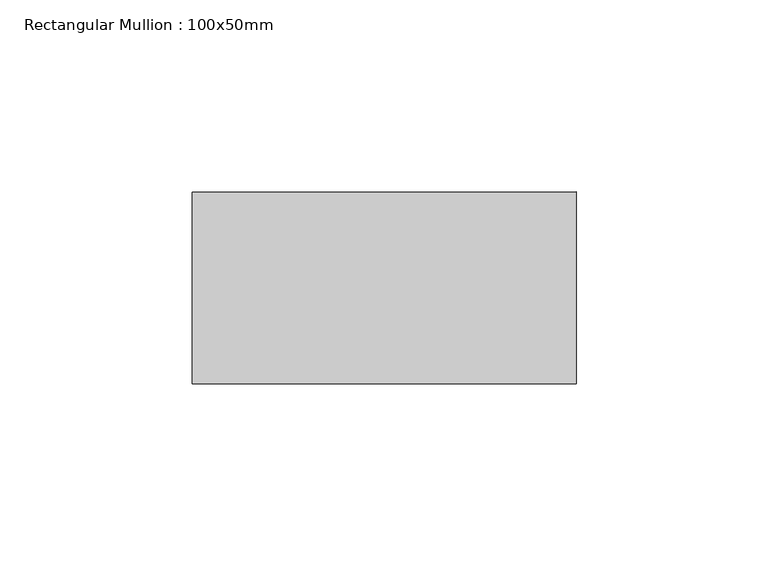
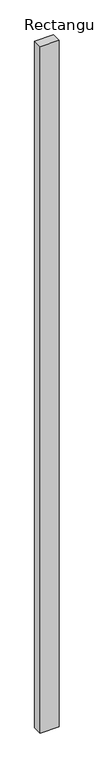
"""IFC4 building model written with IfcOpenShell, lengths in millimetres: member geometry, Rectangular Mullion : 100x50mm."""

from ifc_helpers import new_model, si_unit, frame, origin, place, context, project, spatial, polyline, outline, extrude, source, transform, mapped, element, save


def rectangular_mullion_100x50mm_a9a6ea0a(model_context):
    return source(origin(), model_context, "Body", "SweptSolid", [
        extrude(outline(polyline([(0.0, 25.0), (0.0, -25.0), (-100.0, -25.0), (-100.0, 25.0), (0.0, 25.0)])), frame((0.0, 0.0, -3839.423247), z_axis=(0.0, 0.0, 1.0), x_axis=(1.0, 0.0, 0.0)), (0.0, 0.0, 1.0), 3839.423247),
    ])


if __name__ == "__main__":
    model = new_model("IFC4")
    model_context = context("Model", 3, world=origin())
    ifc_project = project(units=[si_unit("LENGTHUNIT", "METRE", prefix="MILLI")], contexts=[model_context])
    site = spatial("IfcSite", under=ifc_project)
    building = spatial("IfcBuilding", under=site)
    placement = place(None, origin())
    rectangular_mullion_100x50mm_shape = rectangular_mullion_100x50mm_a9a6ea0a(model_context)
    element("IfcMember", 1, ObjectType="Rectangular Mullion : 100x50mm", at=placement, inside=building, context=model_context, shape_type="MappedRepresentation", body=[
        mapped(rectangular_mullion_100x50mm_shape, transform((0.0, 0.0, 0.0), x_axis=(1.0, 0.0, 0.0), y_axis=(0.0, 1.0, 0.0), z_axis=(0.0, 0.0, 1.0))),
    ])
    save(model, "model.ifc")
